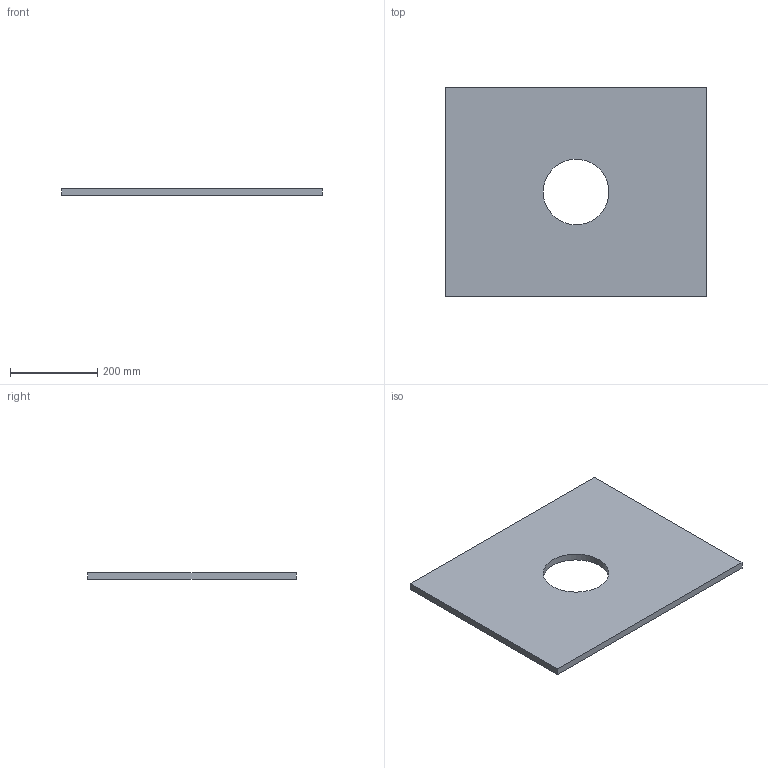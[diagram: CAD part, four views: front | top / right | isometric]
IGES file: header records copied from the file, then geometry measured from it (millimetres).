
Global section: file name: 510024; native system: Autodesk Inventor 2023; preprocessor: unknown; author: JANAN; date: 20241002.131732; units: millimetre
Bounding box: 596 x 477.5 x 16 mm (x, y, z)
Volume: 4270327.2 mm3; surface area: 575738.9 mm2
Topology: 1 solids, 1 shells, 7 faces, 15 edges, 10 vertices
Faces by surface type: bspline 7
